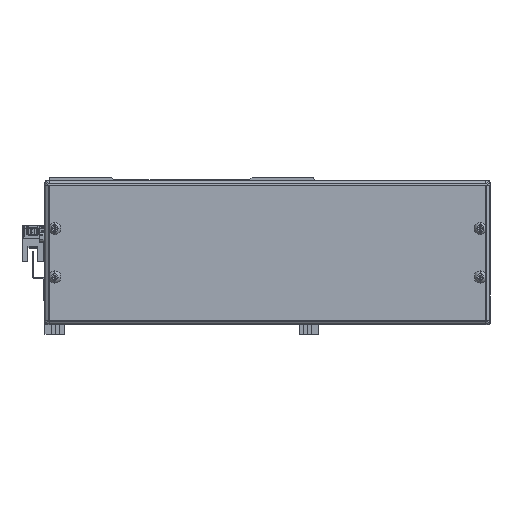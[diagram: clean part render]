
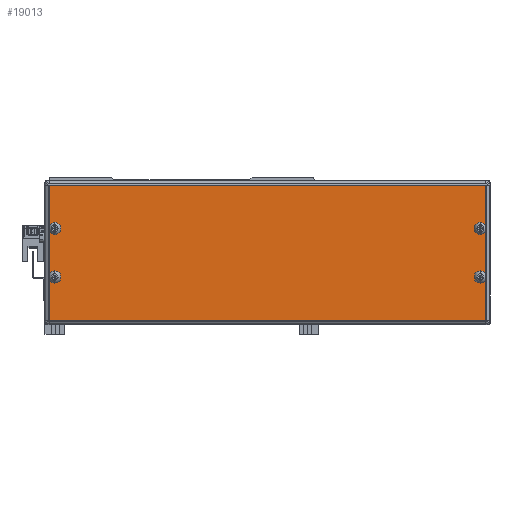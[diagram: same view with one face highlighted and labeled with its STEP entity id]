
A CAD part, front view. The second image highlights one B-rep face of the part: STEP entity #19013.
In plain terms, the highlighted planar face has unit normal (0, -1, 0) as drawn and (0, 0, -1) by its records, which use the part's own axes.
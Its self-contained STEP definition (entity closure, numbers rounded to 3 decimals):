
#1120 = LINE ( 'NONE', #37367, #36754 ) ;
#1728 = DIRECTION ( 'NONE',  ( 0., 0., -1. ) ) ;
#2052 = CARTESIAN_POINT ( 'NONE',  ( -91.026, 57.469, -242.5 ) ) ;
#2086 = CARTESIAN_POINT ( 'NONE',  ( 175.267, 0.706, -242.5 ) ) ;
#2303 = ORIENTED_EDGE ( 'NONE', *, *, #24564, .T. ) ;
#2753 = FACE_BOUND ( 'NONE', #34381, .T. ) ;
#3322 = CARTESIAN_POINT ( 'NONE',  ( -90.996, 57.469, -242.5 ) ) ;
#3457 = DIRECTION ( 'NONE',  ( 0., -1., 0. ) ) ;
#4218 = EDGE_CURVE ( 'NONE', #24672, #32026, #28936, .T. ) ;
#4528 = ORIENTED_EDGE ( 'NONE', *, *, #14440, .F. ) ;
#4829 = CARTESIAN_POINT ( 'NONE',  ( 173.017, 0.706, -242.5 ) ) ;
#4984 = CARTESIAN_POINT ( 'NONE',  ( -85.483, 30.706, -242.5 ) ) ;
#5559 = CARTESIAN_POINT ( 'NONE',  ( -85.483, 0.706, -242.5 ) ) ;
#5760 = CIRCLE ( 'NONE', #18218, 2.25 ) ;
#5945 = CARTESIAN_POINT ( 'NONE',  ( -90.996, -26.087, -242.5 ) ) ;
#6100 = DIRECTION ( 'NONE',  ( 0., 0., -1. ) ) ;
#6326 = CARTESIAN_POINT ( 'NONE',  ( 175.267, 30.706, -242.5 ) ) ;
#6363 = CARTESIAN_POINT ( 'NONE',  ( 178.56, -26.058, -242.5 ) ) ;
#6443 = CARTESIAN_POINT ( 'NONE',  ( 175.267, 30.706, -242.5 ) ) ;
#6730 = VERTEX_POINT ( 'NONE', #20101 ) ;
#6875 = VERTEX_POINT ( 'NONE', #32882 ) ;
#6921 = CIRCLE ( 'NONE', #11975, 2.25 ) ;
#8209 = CIRCLE ( 'NONE', #38243, 2.25 ) ;
#8400 = ORIENTED_EDGE ( 'NONE', *, *, #19037, .T. ) ;
#8622 = AXIS2_PLACEMENT_3D ( 'NONE', #35337, #38463, #22688 ) ;
#8818 = DIRECTION ( 'NONE',  ( -1., 0., 0. ) ) ;
#9008 = EDGE_CURVE ( 'NONE', #35156, #25148, #8209, .T. ) ;
#10807 = DIRECTION ( 'NONE',  ( 0., 0., -1. ) ) ;
#11775 = EDGE_LOOP ( 'NONE', ( #37549, #4528 ) ) ;
#11900 = EDGE_CURVE ( 'NONE', #24088, #35658, #17685, .T. ) ;
#11975 = AXIS2_PLACEMENT_3D ( 'NONE', #17674, #15521, #26928 ) ;
#12304 = PLANE ( 'NONE',  #27331 ) ;
#12348 = FACE_BOUND ( 'NONE', #28819, .T. ) ;
#12712 = DIRECTION ( 'NONE',  ( -1., 0., 0. ) ) ;
#13267 = VECTOR ( 'NONE', #21558, 1000. ) ;
#13326 = AXIS2_PLACEMENT_3D ( 'NONE', #6326, #27848, #34192 ) ;
#13591 = EDGE_LOOP ( 'NONE', ( #28187, #22019 ) ) ;
#14148 = VERTEX_POINT ( 'NONE', #24300 ) ;
#14440 = EDGE_CURVE ( 'NONE', #33447, #6730, #27082, .T. ) ;
#14454 = DIRECTION ( 'NONE',  ( 0., 0., -1. ) ) ;
#14750 = EDGE_CURVE ( 'NONE', #22838, #27326, #28960, .T. ) ;
#15238 = DIRECTION ( 'NONE',  ( 1., 0., 0. ) ) ;
#15521 = DIRECTION ( 'NONE',  ( 0., 0., -1. ) ) ;
#16598 = CARTESIAN_POINT ( 'NONE',  ( -87.733, 30.706, -242.5 ) ) ;
#16775 = CARTESIAN_POINT ( 'NONE',  ( -87.733, 30.706, -242.5 ) ) ;
#16901 = AXIS2_PLACEMENT_3D ( 'NONE', #6443, #18963, #33920 ) ;
#17487 = CARTESIAN_POINT ( 'NONE',  ( -87.733, 0.706, -242.5 ) ) ;
#17674 = CARTESIAN_POINT ( 'NONE',  ( -87.733, 0.706, -242.5 ) ) ;
#17685 = CIRCLE ( 'NONE', #8622, 2.25 ) ;
#18218 = AXIS2_PLACEMENT_3D ( 'NONE', #2086, #14454, #32617 ) ;
#18963 = DIRECTION ( 'NONE',  ( 0., 0., -1. ) ) ;
#19013 = ADVANCED_FACE ( 'NONE', ( #2753, #24383, #36928, #12348, #38872 ), #12304, .T. ) ;
#19037 = EDGE_CURVE ( 'NONE', #6875, #14148, #36457, .T. ) ;
#19048 = ORIENTED_EDGE ( 'NONE', *, *, #28603, .T. ) ;
#19325 = CARTESIAN_POINT ( 'NONE',  ( 177.517, 30.706, -242.5 ) ) ;
#19367 = ORIENTED_EDGE ( 'NONE', *, *, #9008, .F. ) ;
#20101 = CARTESIAN_POINT ( 'NONE',  ( -89.983, 30.706, -242.5 ) ) ;
#20894 = ORIENTED_EDGE ( 'NONE', *, *, #11900, .F. ) ;
#21558 = DIRECTION ( 'NONE',  ( 0., 1., 0. ) ) ;
#22019 = ORIENTED_EDGE ( 'NONE', *, *, #14750, .F. ) ;
#22455 = ORIENTED_EDGE ( 'NONE', *, *, #38636, .F. ) ;
#22688 = DIRECTION ( 'NONE',  ( -1., 0., 0. ) ) ;
#22838 = VERTEX_POINT ( 'NONE', #19325 ) ;
#23334 = CARTESIAN_POINT ( 'NONE',  ( -89.983, 0.706, -242.5 ) ) ;
#23905 = CARTESIAN_POINT ( 'NONE',  ( 178.531, 57.469, -242.5 ) ) ;
#24088 = VERTEX_POINT ( 'NONE', #35665 ) ;
#24300 = CARTESIAN_POINT ( 'NONE',  ( -90.996, -26.058, -242.5 ) ) ;
#24346 = LINE ( 'NONE', #5945, #13267 ) ;
#24383 = FACE_BOUND ( 'NONE', #11775, .T. ) ;
#24564 = EDGE_CURVE ( 'NONE', #32026, #6875, #1120, .T. ) ;
#24672 = VERTEX_POINT ( 'NONE', #3322 ) ;
#25148 = VERTEX_POINT ( 'NONE', #5559 ) ;
#26189 = DIRECTION ( 'NONE',  ( -1., 0., 0. ) ) ;
#26305 = VECTOR ( 'NONE', #12712, 1000. ) ;
#26928 = DIRECTION ( 'NONE',  ( -1., 0., 0. ) ) ;
#27082 = CIRCLE ( 'NONE', #31890, 2.25 ) ;
#27326 = VERTEX_POINT ( 'NONE', #33328 ) ;
#27331 = AXIS2_PLACEMENT_3D ( 'NONE', #27361, #6100, #8818 ) ;
#27361 = CARTESIAN_POINT ( 'NONE',  ( 152.617, 5.246, -242.5 ) ) ;
#27848 = DIRECTION ( 'NONE',  ( 0., 0., -1. ) ) ;
#28187 = ORIENTED_EDGE ( 'NONE', *, *, #28781, .F. ) ;
#28603 = EDGE_CURVE ( 'NONE', #14148, #24672, #24346, .T. ) ;
#28781 = EDGE_CURVE ( 'NONE', #27326, #22838, #38789, .T. ) ;
#28819 = EDGE_LOOP ( 'NONE', ( #29551, #20894 ) ) ;
#28936 = LINE ( 'NONE', #2052, #35735 ) ;
#28960 = CIRCLE ( 'NONE', #13326, 2.25 ) ;
#29292 = DIRECTION ( 'NONE',  ( 0., 0., -1. ) ) ;
#29503 = CIRCLE ( 'NONE', #31846, 2.25 ) ;
#29551 = ORIENTED_EDGE ( 'NONE', *, *, #29630, .F. ) ;
#29630 = EDGE_CURVE ( 'NONE', #35658, #24088, #5760, .T. ) ;
#31846 = AXIS2_PLACEMENT_3D ( 'NONE', #16775, #1728, #26189 ) ;
#31890 = AXIS2_PLACEMENT_3D ( 'NONE', #16598, #10807, #32336 ) ;
#32026 = VERTEX_POINT ( 'NONE', #23905 ) ;
#32336 = DIRECTION ( 'NONE',  ( -1., 0., 0. ) ) ;
#32617 = DIRECTION ( 'NONE',  ( -1., 0., 0. ) ) ;
#32882 = CARTESIAN_POINT ( 'NONE',  ( 178.531, -26.058, -242.5 ) ) ;
#33246 = EDGE_LOOP ( 'NONE', ( #8400, #19048, #38224, #2303 ) ) ;
#33328 = CARTESIAN_POINT ( 'NONE',  ( 173.017, 30.706, -242.5 ) ) ;
#33447 = VERTEX_POINT ( 'NONE', #4984 ) ;
#33920 = DIRECTION ( 'NONE',  ( -1., 0., 0. ) ) ;
#34192 = DIRECTION ( 'NONE',  ( -1., 0., 0. ) ) ;
#34381 = EDGE_LOOP ( 'NONE', ( #19367, #22455 ) ) ;
#35156 = VERTEX_POINT ( 'NONE', #23334 ) ;
#35337 = CARTESIAN_POINT ( 'NONE',  ( 175.267, 0.706, -242.5 ) ) ;
#35658 = VERTEX_POINT ( 'NONE', #4829 ) ;
#35665 = CARTESIAN_POINT ( 'NONE',  ( 177.517, 0.706, -242.5 ) ) ;
#35735 = VECTOR ( 'NONE', #15238, 1000. ) ;
#36457 = LINE ( 'NONE', #6363, #26305 ) ;
#36754 = VECTOR ( 'NONE', #3457, 1000. ) ;
#36928 = FACE_BOUND ( 'NONE', #13591, .T. ) ;
#37367 = CARTESIAN_POINT ( 'NONE',  ( 178.531, 57.499, -242.5 ) ) ;
#37549 = ORIENTED_EDGE ( 'NONE', *, *, #39400, .F. ) ;
#38224 = ORIENTED_EDGE ( 'NONE', *, *, #4218, .T. ) ;
#38243 = AXIS2_PLACEMENT_3D ( 'NONE', #17487, #29292, #38630 ) ;
#38463 = DIRECTION ( 'NONE',  ( 0., 0., -1. ) ) ;
#38630 = DIRECTION ( 'NONE',  ( -1., 0., 0. ) ) ;
#38636 = EDGE_CURVE ( 'NONE', #25148, #35156, #6921, .T. ) ;
#38789 = CIRCLE ( 'NONE', #16901, 2.25 ) ;
#38872 = FACE_OUTER_BOUND ( 'NONE', #33246, .T. ) ;
#39400 = EDGE_CURVE ( 'NONE', #6730, #33447, #29503, .T. ) ;
